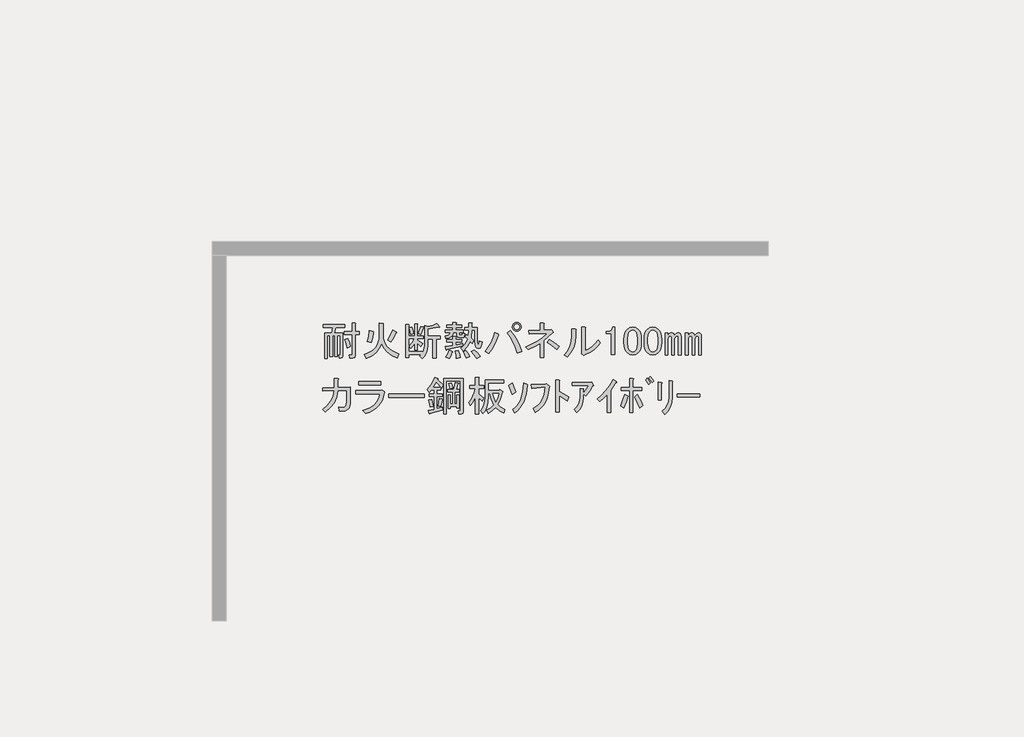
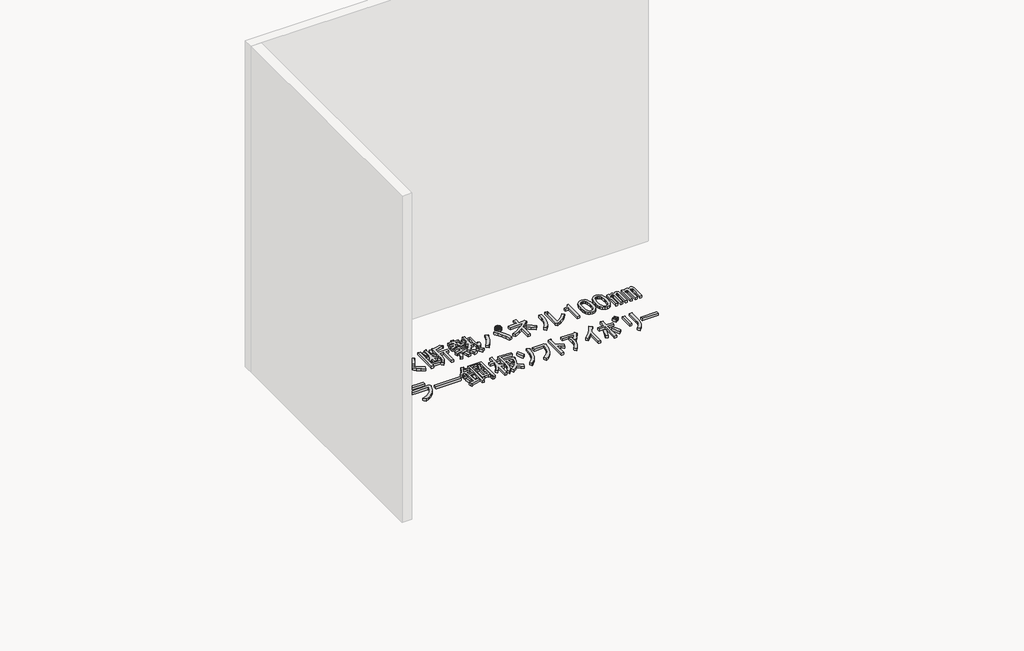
# One storey, part 111 of 117: 1 proxy.
"""IFC4 building model written with IfcOpenShell, lengths in millimetres."""

from ifc_helpers import new_model, si_unit, frame, origin, place, context, project, spatial, polyline, outline, extrude, element, save

model = new_model("IFC4")

# Units and contexts
model_context = context("Model", 3, world=origin())
ifc_project = project(units=[si_unit("LENGTHUNIT", "METRE", prefix="MILLI")], contexts=[model_context])

# Site, building, storey
site = spatial("IfcSite", under=ifc_project)
building = spatial("IfcBuilding", under=site)
storey = spatial("IfcBuildingStorey", under=building, Name="レベル 1", Elevation=500.0)

# Proxy
placement = place(None, origin())
element("IfcBuildingElementProxy", 1, Name="200㎜\u3000MS Pゴシック", ObjectType="200㎜\u3000MS Pゴシック", at=placement, inside=storey, context=model_context, shape_type="SweptSolid", body=[
    extrude(outline(polyline([(56978.5674486, 11229.3142262), (56971.0959694, 11259.7748726), (56960.176115, 11289.0860605), (56982.0158237, 11297.132269), (56994.372501, 11267.5337164), (57001.5566157, 11238.5098931), (56978.5674486, 11229.3142262)])), frame((0.0, 0.0, 500.0), z_axis=(0.0, 0.0, 1.0), x_axis=(1.0, 0.0, 0.0)), (0.0, 0.0, 1.0), 25.0),
    extrude(outline(polyline([(56887.7602388, 11320.121436), (56871.6678219, 11320.121436), (56871.6678219, 11164.9445585), (56852.1270299, 11164.9445585), (56852.1270299, 11320.121436), (56833.7356963, 11320.121436), (56833.7356963, 11152.3005167), (56814.1949043, 11152.3005167), (56814.1949043, 11338.5127697), (56865.9205301, 11338.5127697), (56871.6678219, 11377.5943537), (56804.9992375, 11377.5943537), (56804.9992375, 11399.4340623), (56960.176115, 11399.4340623), (56960.176115, 11377.5943537), (56895.8064473, 11377.5943537), (56885.4613221, 11338.5127697), (56946.3826148, 11338.5127697), (56946.3826148, 11170.6918503), (56942.3595106, 11158.6225376), (56930.2901979, 11154.5994334), (56919.9450727, 11154.5994334), (56915.3472393, 11176.439142), (56922.2439894, 11176.439142), (56925.6923645, 11177.5886004), (56926.8418228, 11181.0369755), (56926.8418228, 11320.121436), (56907.3010308, 11320.121436), (56907.3010308, 11164.9445585), (56887.7602388, 11164.9445585), (56887.7602388, 11320.121436)])), frame((0.0, 0.0, 500.0), z_axis=(0.0, 0.0, 1.0), x_axis=(1.0, 0.0, 0.0)), (0.0, 0.0, 1.0), 25.0),
    extrude(outline(polyline([(56956.72774, 11325.8687278), (56956.72774, 11347.7084365), (57013.0511992, 11347.7084365), (57013.0511992, 11409.7791875), (57034.8909079, 11409.7791875), (57039.7761059, 11407.4802708), (57036.0403663, 11402.8824374), (57036.0403663, 11347.7084365), (57064.7768251, 11347.7084365), (57064.7768251, 11325.8687278), (57036.0403663, 11325.8687278), (57036.0403663, 11172.990767), (57031.4425328, 11159.1972668), (57017.6490326, 11154.5994334), (56994.6598656, 11154.5994334), (56991.2114905, 11176.439142), (57008.4533658, 11176.439142), (57011.9017409, 11177.5886004), (57013.0511992, 11181.0369755), (57013.0511992, 11325.8687278), (56956.72774, 11325.8687278)])), frame((0.0, 0.0, 500.0), z_axis=(0.0, 0.0, 1.0), x_axis=(1.0, 0.0, 0.0)), (0.0, 0.0, 1.0), 25.0),
    extrude(outline(polyline([(57226.8504527, 11261.4990601), (57210.9017181, 11226.6561038), (57187.1941395, 11196.8420278), (57155.7277172, 11172.0568321), (57116.5024509, 11152.3005167), (57102.7089507, 11181.0369755), (57128.032955, 11190.71757), (57149.9804254, 11202.5174784), (57168.5513619, 11216.4367006), (57183.7457645, 11232.4752367), (57195.5636332, 11250.6330866), (57204.0049679, 11270.9102504), (57209.0697688, 11293.3067279), (57210.7580358, 11317.8225193), (57210.7580358, 11408.6297292), (57237.1955779, 11406.3308125), (57240.6439529, 11402.8824374), (57237.1955779, 11397.1351456), (57237.1955779, 11317.8225193), (57238.9916065, 11296.377937), (57244.3796926, 11276.2983364), (57253.3598359, 11257.5837176), (57265.9320367, 11240.2340806), (57282.0962947, 11224.2494254), (57301.8526102, 11209.629752), (57352.1414131, 11184.4853505), (57340.6468295, 11155.7488917), (57301.2060398, 11175.2896837), (57269.0930471, 11199.4283091), (57244.3078514, 11228.1647679), (57226.8504527, 11261.4990601)])), frame((0.0, 0.0, 500.0), z_axis=(0.0, 0.0, 1.0), x_axis=(1.0, 0.0, 0.0)), (0.0, 0.0, 1.0), 25.0),
    extrude(outline(polyline([(57330.3017044, 11337.3633113), (57310.1861832, 11297.9943628), (57293.5190371, 11271.8441853), (57270.5298701, 11286.7871438), (57290.3580266, 11318.3972485), (57308.4619957, 11358.0535617), (57333.7500794, 11345.4095198), (57336.3363607, 11341.6737801), (57330.3017044, 11337.3633113)])), frame((0.0, 0.0, 500.0), z_axis=(0.0, 0.0, 1.0), x_axis=(1.0, 0.0, 0.0)), (0.0, 0.0, 1.0), 25.0),
    extrude(outline(polyline([(57122.2497427, 11276.4420187), (57134.0316908, 11310.6384046), (57137.1927012, 11353.4557283), (57165.92916, 11346.5589781), (57170.5269934, 11342.8232385), (57165.92916, 11338.5127697), (57162.1934204, 11304.0290191), (57150.9862015, 11267.2463519), (57122.2497427, 11276.4420187)])), frame((0.0, 0.0, 500.0), z_axis=(0.0, 0.0, 1.0), x_axis=(1.0, 0.0, 0.0)), (0.0, 0.0, 1.0), 25.0),
    extrude(outline(polyline([(57647.5522095, 11381.0427287), (57645.828022, 11376.4448953), (57638.3565427, 11378.743812), (57561.3428331, 11366.0997701), (57561.3428331, 11316.673061), (57653.2995013, 11316.673061), (57653.2995013, 11294.8333523), (57622.2641258, 11294.8333523), (57622.2641258, 11154.5994334), (57599.2749588, 11154.5994334), (57599.2749588, 11294.8333523), (57561.3428331, 11294.8333523), (57561.3428331, 11245.4066432), (57558.7565518, 11217.6041193), (57550.997708, 11192.8189236), (57538.0663015, 11171.051056), (57519.9623325, 11152.3005167), (57502.7204572, 11171.8413086), (57513.0655823, 11181.0369755), (57423.4078309, 11181.0369755), (57423.4078309, 11159.1972668), (57400.4186638, 11159.1972668), (57400.4186638, 11398.284604), (57422.2583725, 11398.284604), (57427.1435705, 11395.9856873), (57423.4078309, 11391.3878539), (57423.4078309, 11315.5236026), (57465.9377899, 11315.5236026), (57465.9377899, 11402.8824374), (57484.3291235, 11402.8824374), (57489.2143215, 11400.5835207), (57485.4785819, 11395.9856873), (57485.4785819, 11315.5236026), (57529.1579993, 11315.5236026), (57529.1579993, 11297.132269), (57485.4785819, 11297.132269), (57485.4785819, 11287.9366022), (57525.7096242, 11261.4990601), (57511.916124, 11239.6593514), (57485.4785819, 11266.0968935), (57485.4785819, 11213.2218093), (57465.9377899, 11213.2218093), (57465.9377899, 11261.4990601), (57452.7190189, 11241.6709035), (57438.3507895, 11225.8658512), (57425.7067476, 11244.2571848), (57447.5464563, 11268.3958102), (57464.7883316, 11297.132269), (57423.4078309, 11297.132269), (57423.4078309, 11202.8766841), (57521.1117908, 11202.8766841), (57521.1117908, 11189.0831839), (57534.0431973, 11213.2218093), (57538.3536661, 11246.5561015), (57538.3536661, 11391.3878539), (57560.1933748, 11385.6405621), (57596.4013129, 11393.1120414), (57626.8619592, 11406.3308125), (57647.5522095, 11381.0427287)])), frame((0.0, 0.0, 500.0), z_axis=(0.0, 0.0, 1.0), x_axis=(1.0, 0.0, 0.0)), (0.0, 0.0, 1.0), 25.0),
    extrude(outline(polyline([(57493.5247904, 11332.7654779), (57510.7666656, 11385.6405621), (57531.456916, 11379.8932704), (57533.1811035, 11376.7322599), (57529.1579993, 11374.1459786), (57511.916124, 11325.8687278), (57493.5247904, 11332.7654779)])), frame((0.0, 0.0, 500.0), z_axis=(0.0, 0.0, 1.0), x_axis=(1.0, 0.0, 0.0)), (0.0, 0.0, 1.0), 25.0),
    extrude(outline(polyline([(57439.5002478, 11324.7192695), (57426.8562059, 11375.2954369), (57446.3969979, 11382.1921871), (57454.1558418, 11358.0535617), (57459.0410398, 11331.6160196), (57439.5002478, 11324.7192695)])), frame((0.0, 0.0, 500.0), z_axis=(0.0, 0.0, 1.0), x_axis=(1.0, 0.0, 0.0)), (0.0, 0.0, 1.0), 25.0),
    extrude(outline(polyline([(57770.5442532, 11340.8116864), (57745.2561695, 11340.8116864), (57740.6583361, 11323.3542877), (57730.3132109, 11310.0636755), (57714.220794, 11300.9398498), (57692.3810853, 11295.9828107), (57687.7832519, 11315.5236026), (57713.0713356, 11324.1445403), (57720.5428149, 11331.4723373), (57724.5659191, 11340.8116864), (57688.9327102, 11340.8116864), (57688.9327102, 11359.20302), (57742.9572528, 11359.20302), (57742.9572528, 11376.4448953), (57699.2778354, 11376.4448953), (57699.2778354, 11394.8362289), (57742.9572528, 11394.8362289), (57742.9572528, 11413.2275626), (57764.7969614, 11413.2275626), (57769.6821594, 11410.9286459), (57765.9464198, 11406.3308125), (57765.9464198, 11394.8362289), (57808.4763788, 11394.8362289), (57808.4763788, 11376.4448953), (57765.9464198, 11376.4448953), (57765.9464198, 11359.20302), (57818.821504, 11359.20302), (57818.821504, 11340.8116864), (57790.0850452, 11340.8116864), (57790.0850452, 11328.1676445), (57791.5218681, 11322.9950819), (57795.832337, 11321.2708944), (57806.1774621, 11321.2708944), (57809.9132018, 11324.4319049), (57809.6258372, 11333.9149363), (57829.1666292, 11331.6160196), (57826.2929833, 11310.0636755), (57820.9767384, 11304.6755894), (57813.0742122, 11302.8795608), (57788.9355868, 11302.8795608), (57775.1420866, 11307.7647588), (57770.5442532, 11322.4203528), (57770.5442532, 11340.8116864)])), frame((0.0, 0.0, 500.0), z_axis=(0.0, 0.0, 1.0), x_axis=(1.0, 0.0, 0.0)), (0.0, 0.0, 1.0), 25.0),
    extrude(outline(polyline([(57901.5825053, 11358.0535617), (57879.7427966, 11358.0535617), (57875.1449632, 11300.5806441), (57894.6857552, 11282.1893104), (57884.3406301, 11260.3496017), (57868.2482131, 11276.4420187), (57848.9947857, 11238.7972576), (57818.821504, 11206.3250592), (57801.5796287, 11227.0153095), (57816.6662696, 11238.9409399), (57829.7413583, 11254.0275808), (57840.804895, 11272.2752321), (57849.8568795, 11293.683894), (57832.6150042, 11308.6268525), (57840.6612127, 11325.8687278), (57854.4547129, 11315.5236026), (57856.7536296, 11358.0535617), (57829.1666292, 11358.0535617), (57829.1666292, 11376.4448953), (57856.7536296, 11376.4448953), (57856.7536296, 11410.9286459), (57878.5933383, 11410.9286459), (57883.4785363, 11408.6297292), (57879.7427966, 11404.0318957), (57879.7427966, 11376.4448953), (57921.1232973, 11376.4448953), (57921.1232973, 11279.8903937), (57924.5716724, 11255.7517683), (57927.804524, 11253.7402162), (57930.6063287, 11256.9012267), (57934.9167975, 11278.7409354), (57954.4575895, 11271.8441853), (57949.9315973, 11245.0474374), (57942.1009122, 11229.0268616), (57930.9655345, 11223.7824579), (57916.5254639, 11229.3142262), (57909.9879195, 11236.6420232), (57905.318245, 11248.280289), (57901.5825053, 11284.4882271), (57901.5825053, 11358.0535617)])), frame((0.0, 0.0, 500.0), z_axis=(0.0, 0.0, 1.0), x_axis=(1.0, 0.0, 0.0)), (0.0, 0.0, 1.0), 25.0),
    extrude(outline(polyline([(57700.4272937, 11218.9691011), (57698.4157416, 11214.0839031), (57694.680002, 11215.520726), (57688.9327102, 11239.6593514), (57744.1067111, 11247.7055599), (57744.1067111, 11270.6947269), (57700.4272937, 11270.6947269), (57700.4272937, 11289.0860605), (57744.1067111, 11289.0860605), (57744.1067111, 11312.0752276), (57762.4980447, 11312.0752276), (57767.3832427, 11309.7763109), (57763.6475031, 11305.1784775), (57763.6475031, 11289.0860605), (57808.4763788, 11289.0860605), (57808.4763788, 11270.6947269), (57763.6475031, 11270.6947269), (57763.6475031, 11251.1539349), (57814.2236706, 11260.3496017), (57814.2236706, 11244.2571848), (57700.4272937, 11218.9691011)])), frame((0.0, 0.0, 500.0), z_axis=(0.0, 0.0, 1.0), x_axis=(1.0, 0.0, 0.0)), (0.0, 0.0, 1.0), 25.0),
    extrude(outline(polyline([(57898.1341303, 11214.3712677), (57922.8474849, 11193.1062881), (57941.8135477, 11168.3929336), (57915.3760056, 11153.449975), (57896.1225782, 11183.0485276), (57877.4438799, 11202.8766841), (57898.1341303, 11214.3712677)])), frame((0.0, 0.0, 500.0), z_axis=(0.0, 0.0, 1.0), x_axis=(1.0, 0.0, 0.0)), (0.0, 0.0, 1.0), 25.0),
    extrude(outline(polyline([(57839.5117543, 11155.7488917), (57831.1781813, 11180.4622463), (57817.6720456, 11201.7272258), (57838.362296, 11209.7734343), (57855.3168067, 11188.2210902), (57867.0987548, 11164.9445585), (57839.5117543, 11155.7488917)])), frame((0.0, 0.0, 500.0), z_axis=(0.0, 0.0, 1.0), x_axis=(1.0, 0.0, 0.0)), (0.0, 0.0, 1.0), 25.0),
    extrude(outline(polyline([(57738.3594193, 11204.0261425), (57741.8077944, 11199.1409445), (57736.0605026, 11195.979934), (57726.2901067, 11170.4044857), (57715.3702523, 11151.1510583), (57692.3810853, 11162.6456418), (57705.0251271, 11186.209538), (57715.3702523, 11213.2218093), (57738.3594193, 11204.0261425)])), frame((0.0, 0.0, 500.0), z_axis=(0.0, 0.0, 1.0), x_axis=(1.0, 0.0, 0.0)), (0.0, 0.0, 1.0), 25.0),
    extrude(outline(polyline([(57783.1882951, 11208.6239759), (57793.2460557, 11181.32434), (57798.1312537, 11159.1972668), (57769.3947949, 11153.449975), (57766.8085136, 11175.0023191), (57759.0496697, 11205.1756008), (57783.1882951, 11208.6239759)])), frame((0.0, 0.0, 500.0), z_axis=(0.0, 0.0, 1.0), x_axis=(1.0, 0.0, 0.0)), (0.0, 0.0, 1.0), 25.0),
    extrude(outline(polyline([(58206.1889686, 11350.0073532), (58193.5449268, 11352.3062699), (58183.1998016, 11359.20302), (58176.3030515, 11369.5481452), (58174.0041348, 11382.1921871), (58176.3030515, 11394.8362289), (58183.1998016, 11405.1813541), (58193.5449268, 11412.0781042), (58206.1889686, 11414.3770209), (58218.8330105, 11412.0781042), (58229.1781357, 11405.1813541), (58236.0748858, 11394.8362289), (58238.3738025, 11382.1921871), (58236.0748858, 11369.5481452), (58229.1781357, 11359.20302), (58218.8330105, 11352.3062699), (58206.1889686, 11350.0073532)]), holes=[polyline([(58206.1889686, 11361.5019367), (58214.5225417, 11362.9387597), (58221.1319272, 11367.2492285), (58225.442396, 11373.858614), (58226.879219, 11382.1921871), (58225.442396, 11390.5257601), (58221.1319272, 11397.1351456), (58214.5225417, 11401.4456145), (58206.1889686, 11402.8824374), (58197.8553956, 11401.4456145), (58191.2460101, 11397.1351456), (58186.9355412, 11390.5257601), (58185.4987183, 11382.1921871), (58186.9355412, 11373.858614), (58191.2460101, 11367.2492285), (58197.8553956, 11362.9387597), (58206.1889686, 11361.5019367)])]), frame((0.0, 0.0, 500.0), z_axis=(0.0, 0.0, 1.0), x_axis=(1.0, 0.0, 0.0)), (0.0, 0.0, 1.0), 25.0),
    extrude(outline(polyline([(58160.2106345, 11355.754645), (58186.8637001, 11319.0438188), (58209.3499791, 11281.3272167), (58227.6694716, 11242.6048384), (58241.8221775, 11202.8766841), (58210.786802, 11192.531559), (58195.3409554, 11235.6362472), (58177.7398744, 11274.143102), (58157.983559, 11308.0521234), (58136.0720092, 11337.3633113), (58160.2106345, 11355.754645)])), frame((0.0, 0.0, 500.0), z_axis=(0.0, 0.0, 1.0), x_axis=(1.0, 0.0, 0.0)), (0.0, 0.0, 1.0), 25.0),
    extrude(outline(polyline([(58072.8517998, 11329.3171029), (58076.874904, 11323.8571757), (58070.5528831, 11318.9719777), (58058.6272527, 11283.5542922), (58043.5406118, 11249.717112), (58025.2929605, 11217.460437), (58003.8842987, 11186.7842672), (57977.4467566, 11204.0261425), (58000.6514471, 11235.4925649), (58019.689351, 11268.9705394), (58034.5604684, 11304.460066), (58045.2647993, 11341.9611447), (58072.8517998, 11329.3171029)])), frame((0.0, 0.0, 500.0), z_axis=(0.0, 0.0, 1.0), x_axis=(1.0, 0.0, 0.0)), (0.0, 0.0, 1.0), 25.0),
    extrude(outline(polyline([(58449.8741393, 11360.3524784), (58456.7708894, 11362.6513951), (58469.4149312, 11345.4095198), (58470.5643896, 11339.3748634), (58464.8170978, 11337.3633113), (58401.5968885, 11281.0398521), (58401.5968885, 11160.3467251), (58375.1593464, 11160.3467251), (58375.1593464, 11262.6485184), (58334.9283041, 11238.5098931), (58290.0994283, 11216.6701844), (58270.5586363, 11237.3604347), (58316.1059235, 11256.8293855), (58357.3427419, 11279.6030291), (58394.2690915, 11305.6813655), (58426.8849722, 11335.0643946), (58296.9961784, 11329.3171029), (58293.5478034, 11354.6051866), (58375.1593464, 11356.9041033), (58375.1593464, 11408.6297292), (58398.1485134, 11408.6297292), (58404.1831698, 11405.1813541), (58401.5968885, 11399.4340623), (58401.5968885, 11358.0535617), (58449.8741393, 11360.3524784)])), frame((0.0, 0.0, 500.0), z_axis=(0.0, 0.0, 1.0), x_axis=(1.0, 0.0, 0.0)), (0.0, 0.0, 1.0), 25.0),
    extrude(outline(polyline([(58495.8524733, 11216.6701844), (58458.7824415, 11245.9813723), (58425.7355139, 11267.2463519), (58442.9773892, 11289.0860605), (58481.7716085, 11265.8095289), (58515.3932653, 11239.6593514), (58495.8524733, 11216.6701844)])), frame((0.0, 0.0, 500.0), z_axis=(0.0, 0.0, 1.0), x_axis=(1.0, 0.0, 0.0)), (0.0, 0.0, 1.0), 25.0),
    extrude(outline(polyline([(58702.8469334, 11209.7734343), (58727.6321291, 11221.9864292), (58751.4115488, 11239.0846222), (58774.1851924, 11261.0680132), (58795.9530599, 11287.9366022), (58812.0454768, 11266.0968935), (58788.7689452, 11238.2943696), (58762.6187677, 11214.6586322), (58733.5949443, 11195.1896814), (58701.697475, 11179.8875171), (58692.5018082, 11175.2896837), (58674.1104746, 11189.0831839), (58676.4093913, 11194.8304757), (58676.4093913, 11379.8932704), (58700.5480167, 11379.8932704), (58706.2953084, 11376.4448953), (58702.8469334, 11370.6976035), (58702.8469334, 11209.7734343)])), frame((0.0, 0.0, 500.0), z_axis=(0.0, 0.0, 1.0), x_axis=(1.0, 0.0, 0.0)), (0.0, 0.0, 1.0), 25.0),
    extrude(outline(polyline([(58548.8195142, 11178.7380587), (58573.9639157, 11207.9774056), (58591.9242024, 11240.5214452), (58602.7003745, 11276.3701775), (58606.2924318, 11315.5236026), (58606.2924318, 11367.2492285), (58630.4310572, 11367.2492285), (58636.178349, 11363.8008534), (58632.7299739, 11358.0535617), (58632.7299739, 11316.673061), (58628.9223931, 11270.9102504), (58617.4996507, 11230.17632), (58598.4617468, 11194.4712699), (58571.8086812, 11163.7951002), (58548.8195142, 11178.7380587)])), frame((0.0, 0.0, 500.0), z_axis=(0.0, 0.0, 1.0), x_axis=(1.0, 0.0, 0.0)), (0.0, 0.0, 1.0), 25.0),
    extrude(outline(polyline([(58891.3581031, 11356.9041033), (58899.4043116, 11367.8239577), (58902.8526866, 11379.8932704), (58916.6461869, 11379.8932704), (58916.6461869, 11181.0369755), (58890.2086448, 11181.0369755), (58890.2086448, 11333.9149363), (58855.7248942, 11333.9149363), (58855.7248942, 11347.7084365), (58866.0700194, 11347.7084365), (58880.4382488, 11350.0073532), (58891.3581031, 11356.9041033)])), frame((0.0, 0.0, 500.0), z_axis=(0.0, 0.0, 1.0), x_axis=(1.0, 0.0, 0.0)), (0.0, 0.0, 1.0), 25.0),
    extrude(outline(polyline([(58982.1653129, 11290.2355189), (58983.6021359, 11313.7994151), (58987.9126047, 11333.9149363), (58995.0967194, 11350.5820824), (59005.15448, 11363.8008534), (59023.258449, 11375.8701661), (59045.3855223, 11379.8932704), (59067.5125956, 11375.8701661), (59085.6165646, 11363.8008534), (59095.6743252, 11350.5820824), (59102.8584399, 11333.9149363), (59107.1689087, 11313.7994151), (59108.6057317, 11290.2355189), (59108.6057317, 11267.2463519), (59107.1689087, 11244.1853437), (59102.8584399, 11224.4290282), (59095.6743252, 11207.9774056), (59085.6165646, 11194.8304757), (59067.5125956, 11182.761163), (59045.3855223, 11178.7380587), (59023.258449, 11182.761163), (59005.15448, 11194.8304757), (58995.0967194, 11207.9774056), (58987.9126047, 11224.4290282), (58983.6021359, 11244.1853437), (58982.1653129, 11267.2463519), (58982.1653129, 11290.2355189)]), holes=[polyline([(59045.3855223, 11358.0535617), (59034.4656679, 11355.754645), (59024.695272, 11348.8578948), (59018.1577276, 11339.7340692), (59013.488053, 11327.3055507), (59009.7523134, 11292.5344356), (59009.7523134, 11266.0968935), (59013.7754176, 11231.9005075), (59018.8042979, 11219.3283068), (59025.8447303, 11209.7734343), (59035.3277617, 11202.8766841), (59045.3855223, 11200.5777674), (59056.3053766, 11202.8766841), (59066.0757726, 11209.7734343), (59072.613317, 11218.8972599), (59077.2829916, 11231.3257784), (59081.0187312, 11266.0968935), (59081.0187312, 11292.5344356), (59077.2829916, 11327.3055507), (59072.613317, 11339.7340692), (59066.0757726, 11348.8578948), (59056.3053766, 11355.754645), (59045.3855223, 11358.0535617)])]), frame((0.0, 0.0, 500.0), z_axis=(0.0, 0.0, 1.0), x_axis=(1.0, 0.0, 0.0)), (0.0, 0.0, 1.0), 25.0),
    extrude(outline(polyline([(59129.295982, 11290.2355189), (59130.7328049, 11313.7994151), (59135.0432737, 11333.9149363), (59142.2273884, 11350.5820824), (59152.285149, 11363.8008534), (59170.3891181, 11375.8701661), (59192.5161914, 11379.8932704), (59214.6432646, 11375.8701661), (59232.7472337, 11363.8008534), (59242.8049943, 11350.5820824), (59249.989109, 11333.9149363), (59254.2995778, 11313.7994151), (59255.7364007, 11290.2355189), (59255.7364007, 11267.2463519), (59254.2995778, 11244.1853437), (59249.989109, 11224.4290282), (59242.8049943, 11207.9774056), (59232.7472337, 11194.8304757), (59214.6432646, 11182.761163), (59192.5161914, 11178.7380587), (59170.3891181, 11182.761163), (59152.285149, 11194.8304757), (59142.2273884, 11207.9774056), (59135.0432737, 11224.4290282), (59130.7328049, 11244.1853437), (59129.295982, 11267.2463519), (59129.295982, 11290.2355189)]), holes=[polyline([(59192.5161914, 11358.0535617), (59181.596337, 11355.754645), (59171.825941, 11348.8578948), (59165.2883966, 11339.7340692), (59160.6187221, 11327.3055507), (59156.8829824, 11292.5344356), (59156.8829824, 11266.0968935), (59160.9060867, 11231.9005075), (59165.934967, 11219.3283068), (59172.9753994, 11209.7734343), (59182.4584308, 11202.8766841), (59192.5161914, 11200.5777674), (59203.4360457, 11202.8766841), (59213.2064417, 11209.7734343), (59219.7439861, 11218.8972599), (59224.4136606, 11231.3257784), (59228.1494003, 11266.0968935), (59228.1494003, 11292.5344356), (59224.4136606, 11327.3055507), (59219.7439861, 11339.7340692), (59213.2064417, 11348.8578948), (59203.4360457, 11355.754645), (59192.5161914, 11358.0535617)])]), frame((0.0, 0.0, 500.0), z_axis=(0.0, 0.0, 1.0), x_axis=(1.0, 0.0, 0.0)), (0.0, 0.0, 1.0), 25.0),
    extrude(outline(polyline([(59300.5652764, 11178.7380587), (59281.0244845, 11178.7380587), (59281.0244845, 11336.213853), (59300.5652764, 11336.213853), (59300.5652764, 11318.9719777), (59312.6345891, 11334.4896654), (59325.8533602, 11339.662228), (59335.049027, 11338.2254051), (59341.9457771, 11333.9149363), (59348.8425272, 11320.121436), (59361.7739337, 11334.77703), (59375.2800693, 11339.662228), (59383.6136424, 11338.2254051), (59390.2230279, 11333.9149363), (59395.3955905, 11325.2939986), (59397.119778, 11313.2246859), (59397.119778, 11178.7380587), (59377.578986, 11178.7380587), (59377.578986, 11302.8795608), (59374.9927047, 11312.3625922), (59367.2338609, 11315.5236026), (59356.8887357, 11310.9257692), (59350.8540793, 11302.3048316), (59348.8425272, 11292.5344356), (59348.8425272, 11178.7380587), (59329.3017352, 11178.7380587), (59329.3017352, 11302.8795608), (59326.715454, 11312.3625922), (59318.9566101, 11315.5236026), (59308.6114849, 11310.9257692), (59302.5768286, 11302.3048316), (59300.5652764, 11292.5344356), (59300.5652764, 11178.7380587)])), frame((0.0, 0.0, 500.0), z_axis=(0.0, 0.0, 1.0), x_axis=(1.0, 0.0, 0.0)), (0.0, 0.0, 1.0), 25.0),
    extrude(outline(polyline([(59522.4107384, 11339.662228), (59530.7443114, 11338.2254051), (59537.353697, 11333.9149363), (59542.5262595, 11325.2939986), (59544.2504471, 11313.2246859), (59544.2504471, 11178.7380587), (59524.7096551, 11178.7380587), (59524.7096551, 11302.8795608), (59522.1233738, 11312.3625922), (59514.3645299, 11315.5236026), (59504.0194048, 11310.9257692), (59497.9847484, 11302.3048316), (59495.9731963, 11292.5344356), (59495.9731963, 11178.7380587), (59476.4324043, 11178.7380587), (59476.4324043, 11302.8795608), (59473.846123, 11312.3625922), (59466.0872791, 11315.5236026), (59455.742154, 11310.9257692), (59449.7074976, 11302.3048316), (59447.6959455, 11292.5344356), (59447.6959455, 11178.7380587), (59428.1551535, 11178.7380587), (59428.1551535, 11336.213853), (59447.6959455, 11336.213853), (59447.6959455, 11318.9719777), (59459.7652582, 11334.4896654), (59472.9840292, 11339.662228), (59482.1796961, 11338.2254051), (59489.0764462, 11333.9149363), (59495.9731963, 11320.121436), (59508.9046028, 11334.77703), (59522.4107384, 11339.662228)])), frame((0.0, 0.0, 500.0), z_axis=(0.0, 0.0, 1.0), x_axis=(1.0, 0.0, 0.0)), (0.0, 0.0, 1.0), 25.0),
    extrude(outline(polyline([(56975.1190736, 10921.2708944), (56909.5999475, 10918.9719777), (56901.3382156, 10872.706279), (56883.44977, 10831.6131429), (56855.9346107, 10795.6925694), (56818.7927377, 10764.9445585), (56799.2519457, 10784.4853505), (56834.2385843, 10812.7189213), (56859.8858738, 10844.5445494), (56876.1938142, 10879.9622349), (56883.1624054, 10918.9719777), (56801.5508624, 10916.673061), (56799.2519457, 10939.662228), (56884.3118638, 10941.9611447), (56884.3118638, 11006.3308125), (56908.4504892, 11006.3308125), (56915.3472393, 11002.8824374), (56910.7494059, 10997.1351456), (56910.7494059, 10941.9611447), (57001.5566157, 10945.4095198), (57001.5566157, 10874.143102), (56998.9703344, 10826.1532158), (56991.2114905, 10794.8304757), (56984.602105, 10784.7727151), (56975.1190736, 10777.5886004), (56962.7623963, 10773.2781316), (56947.5320731, 10771.8413086), (56919.9450727, 10771.8413086), (56916.4966976, 10800.5777674), (56946.3826148, 10798.2788507), (56960.4634796, 10801.1524966), (56968.2223235, 10809.7734343), (56973.3948861, 10835.061518), (56975.1190736, 10874.143102), (56975.1190736, 10921.2708944)])), frame((0.0, 0.0, 500.0), z_axis=(0.0, 0.0, 1.0), x_axis=(1.0, 0.0, 0.0)), (0.0, 0.0, 1.0), 25.0),
    extrude(outline(polyline([(57089.9729521, 10775.2896837), (57139.6151847, 10793.6091762), (57159.8564279, 10805.7323697), (57177.0444223, 10819.8311948), (57191.179168, 10835.9056515), (57202.2606649, 10853.9557397), (57210.2889131, 10873.9814594), (57215.2639125, 10895.9828107), (57040.546243, 10895.9828107), (57040.546243, 10921.2708944), (57216.4133709, 10921.2708944), (57226.758496, 10924.7192695), (57247.4487464, 10912.0752276), (57250.3223922, 10906.6153004), (57245.1498297, 10901.7301024), (57239.0253719, 10874.2508637), (57229.8476653, 10849.2860651), (57217.6167101, 10826.8357067), (57202.332506, 10806.8997884), (57183.9950533, 10789.4783102), (57162.6043517, 10774.5712722), (57138.1604015, 10762.1786744), (57110.6632025, 10752.3005167), (57089.9729521, 10775.2896837)])), frame((0.0, 0.0, 500.0), z_axis=(0.0, 0.0, 1.0), x_axis=(1.0, 0.0, 0.0)), (0.0, 0.0, 1.0), 25.0),
    extrude(outline(polyline([(57219.8617459, 10961.5019367), (57061.2364933, 10961.5019367), (57061.2364933, 10986.7900205), (57219.8617459, 10986.7900205), (57219.8617459, 10961.5019367)])), frame((0.0, 0.0, 500.0), z_axis=(0.0, 0.0, 1.0), x_axis=(1.0, 0.0, 0.0)), (0.0, 0.0, 1.0), 25.0),
    extrude(outline(polyline([(57278.8979269, 10870.6947269), (57278.8979269, 10895.9828107), (57535.2271394, 10895.9828107), (57535.2271394, 10870.6947269), (57278.8979269, 10870.6947269)])), frame((0.0, 0.0, 500.0), z_axis=(0.0, 0.0, 1.0), x_axis=(1.0, 0.0, 0.0)), (0.0, 0.0, 1.0), 25.0),
    extrude(outline(polyline([(57662.5411464, 10937.3633113), (57621.1606458, 10981.0427287), (57599.3209371, 10941.9611447), (57654.494938, 10941.9611447), (57654.494938, 10923.5698111), (57628.0573959, 10923.5698111), (57628.0573959, 10894.8333523), (57665.9895215, 10894.8333523), (57665.9895215, 10876.4420187), (57628.0573959, 10876.4420187), (57628.0573959, 10789.0831839), (57667.1389799, 10799.4283091), (57669.4378966, 10779.8875171), (57577.4812284, 10754.5994334), (57575.1823117, 10748.8521416), (57570.5844783, 10752.3005167), (57563.6877282, 10775.2896837), (57608.5166039, 10784.4853505), (57608.5166039, 10876.4420187), (57570.5844783, 10876.4420187), (57570.5844783, 10894.8333523), (57608.5166039, 10894.8333523), (57608.5166039, 10923.5698111), (57586.6768952, 10923.5698111), (57571.7339366, 10905.1784775), (57559.0898948, 10925.8687278), (57587.2516244, 10963.5134888), (57611.964979, 11014.3770209), (57633.8046876, 11008.6297292), (57637.2530627, 11004.8939895), (57631.5057709, 11002.8824374), (57630.3563126, 10999.4340623), (57675.1851883, 10961.5019367), (57662.5411464, 10937.3633113)])), frame((0.0, 0.0, 500.0), z_axis=(0.0, 0.0, 1.0), x_axis=(1.0, 0.0, 0.0)), (0.0, 0.0, 1.0), 25.0),
    extrude(outline(polyline([(57730.3591892, 10974.1459786), (57737.5433039, 10958.9156554), (57743.0032311, 10938.5127697), (57725.7613558, 10932.7654779), (57714.2667723, 10969.5481452), (57730.3591892, 10974.1459786)])), frame((0.0, 0.0, 500.0), z_axis=(0.0, 0.0, 1.0), x_axis=(1.0, 0.0, 0.0)), (0.0, 0.0, 1.0), 25.0),
    extrude(outline(polyline([(57783.2342734, 10972.9965202), (57785.8205547, 10969.5481452), (57779.7858984, 10966.0997701), (57767.1418565, 10928.1676445), (57787.8321068, 10928.1676445), (57787.8321068, 10909.7763109), (57756.7967313, 10909.7763109), (57756.7967313, 10821.2680178), (57771.7396899, 10821.2680178), (57771.7396899, 10889.0860605), (57787.8321068, 10889.0860605), (57787.8321068, 10794.8304757), (57771.7396899, 10794.8304757), (57771.7396899, 10802.8766841), (57725.7613558, 10802.8766841), (57725.7613558, 10790.2326423), (57709.6689389, 10790.2326423), (57709.6689389, 10886.7871438), (57725.7613558, 10886.7871438), (57725.7613558, 10821.2680178), (57740.7043144, 10821.2680178), (57740.7043144, 10909.7763109), (57705.0711055, 10909.7763109), (57705.0711055, 10928.1676445), (57751.0494396, 10928.1676445), (57761.3945647, 10977.5943537), (57783.2342734, 10972.9965202)])), frame((0.0, 0.0, 500.0), z_axis=(0.0, 0.0, 1.0), x_axis=(1.0, 0.0, 0.0)), (0.0, 0.0, 1.0), 25.0),
    extrude(outline(polyline([(57677.484105, 11006.3308125), (57817.718024, 11006.3308125), (57817.718024, 10766.0940169), (57813.9822843, 10754.8867979), (57802.7750654, 10751.1510583), (57786.6826485, 10751.1510583), (57782.0848151, 10772.990767), (57793.5793986, 10772.990767), (57797.0277736, 10774.1402253), (57798.177232, 10777.5886004), (57798.177232, 10987.9394788), (57697.024897, 10987.9394788), (57697.024897, 10748.8521416), (57677.484105, 10748.8521416), (57677.484105, 11006.3308125)])), frame((0.0, 0.0, 500.0), z_axis=(0.0, 0.0, 1.0), x_axis=(1.0, 0.0, 0.0)), (0.0, 0.0, 1.0), 25.0),
    extrude(outline(polyline([(57665.9895215, 10858.050685), (57668.5758028, 10854.8896746), (57664.8400632, 10852.3033933), (57656.7938547, 10805.1756008), (57638.4025211, 10807.4745175), (57644.1498128, 10861.4990601), (57665.9895215, 10858.050685)])), frame((0.0, 0.0, 500.0), z_axis=(0.0, 0.0, 1.0), x_axis=(1.0, 0.0, 0.0)), (0.0, 0.0, 1.0), 25.0),
    extrude(outline(polyline([(57588.9758119, 10856.9012267), (57600.4703954, 10805.1756008), (57579.7801451, 10799.4283091), (57568.2855616, 10851.1539349), (57588.9758119, 10856.9012267)])), frame((0.0, 0.0, 500.0), z_axis=(0.0, 0.0, 1.0), x_axis=(1.0, 0.0, 0.0)), (0.0, 0.0, 1.0), 25.0),
    extrude(outline(polyline([(57988.9873184, 10777.5886004), (58017.7237772, 10794.8304757), (58039.5634859, 10816.6701844), (58021.7468815, 10858.6254142), (58011.9764855, 10899.4311857), (57999.3324436, 10899.4311857), (57999.3324436, 10875.2925603), (57996.8898446, 10833.5528539), (57989.5620476, 10799.1409445), (57977.3490526, 10772.0568321), (57960.2508596, 10752.3005167), (57946.4573594, 10775.2896837), (57959.5324482, 10792.6752413), (57968.8717973, 10814.9459968), (57974.4754067, 10842.1019504), (57976.3432766, 10874.143102), (57976.3432766, 10994.8362289), (58113.1288204, 10994.8362289), (58113.1288204, 10972.9965202), (57999.3324436, 10972.9965202), (57999.3324436, 10921.2708944), (58078.6450699, 10921.2708944), (58084.3923616, 10927.0181862), (58103.9331536, 10913.2246859), (58105.3699766, 10909.4889463), (58100.4847786, 10905.1784775), (58088.1281013, 10858.6254142), (58069.4494031, 10817.8196427), (58088.4154659, 10799.4283091), (58120.0255706, 10781.0369755), (58110.8299037, 10756.8983501), (58082.9555387, 10772.990767), (58054.5064445, 10798.2788507), (58030.0804545, 10773.8528608), (57998.1829852, 10753.449975), (57988.9873184, 10777.5886004)]), holes=[polyline([(58033.8161942, 10899.4311857), (58041.8624026, 10866.3842581), (58054.5064445, 10838.5098931), (58067.1504864, 10864.6600706), (58075.1966948, 10899.4311857), (58033.8161942, 10899.4311857)])]), frame((0.0, 0.0, 500.0), z_axis=(0.0, 0.0, 1.0), x_axis=(1.0, 0.0, 0.0)), (0.0, 0.0, 1.0), 25.0),
    extrude(outline(polyline([(57906.2263171, 10748.8521416), (57906.2263171, 10868.3958102), (57888.4097126, 10834.1994242), (57869.4436498, 10812.072351), (57857.9490663, 10832.7626013), (57875.1909416, 10855.4644037), (57888.9844418, 10879.8903937), (57899.329567, 10906.0405712), (57906.2263171, 10933.9149363), (57864.8458164, 10933.9149363), (57864.8458164, 10955.754645), (57906.2263171, 10955.754645), (57906.2263171, 11015.5264793), (57928.0660258, 11015.5264793), (57932.9512238, 11013.2275626), (57929.2154841, 11008.6297292), (57929.2154841, 10955.754645), (57967.1476097, 10955.754645), (57967.1476097, 10933.9149363), (57929.2154841, 10933.9149363), (57929.2154841, 10893.683894), (57967.1476097, 10867.2463519), (57956.8024846, 10844.2571848), (57929.2154841, 10867.2463519), (57929.2154841, 10748.8521416), (57906.2263171, 10748.8521416)])), frame((0.0, 0.0, 500.0), z_axis=(0.0, 0.0, 1.0), x_axis=(1.0, 0.0, 0.0)), (0.0, 0.0, 1.0), 25.0),
    extrude(outline(polyline([(58171.7511964, 10976.4448953), (58199.3381969, 10910.9257692), (58175.1995715, 10892.5344356), (58148.7620294, 10958.0535617), (58171.7511964, 10976.4448953)])), frame((0.0, 0.0, 500.0), z_axis=(0.0, 0.0, 1.0), x_axis=(1.0, 0.0, 0.0)), (0.0, 0.0, 1.0), 25.0),
    extrude(outline(polyline([(58280.9497398, 10964.9503118), (58284.9728441, 10960.9272075), (58280.9497398, 10958.0535617), (58273.2627371, 10893.7557351), (58255.9490207, 10838.7972576), (58243.6821448, 10814.8202748), (58229.0085906, 10793.1781293), (58211.9283579, 10773.870821), (58192.4414467, 10756.8983501), (58176.3490298, 10781.0369755), (58194.2195151, 10795.6566489), (58209.8988455, 10813.078127), (58223.3870208, 10833.3014099), (58234.6840412, 10856.3264975), (58250.704617, 10910.7820869), (58257.9605728, 10976.4448953), (58280.9497398, 10964.9503118)])), frame((0.0, 0.0, 500.0), z_axis=(0.0, 0.0, 1.0), x_axis=(1.0, 0.0, 0.0)), (0.0, 0.0, 1.0), 25.0),
    extrude(outline(polyline([(58314.0541404, 10936.213853), (58310.6057653, 10962.6513951), (58417.5053921, 10966.0997701), (58423.2526838, 10967.2492285), (58442.7934758, 10953.4557283), (58444.5176633, 10948.8578948), (58440.4945591, 10946.5589781), (58431.658098, 10885.4940032), (58423.198803, 10858.7331759), (58412.0454649, 10834.4867888), (58398.1980838, 10812.7548419), (58381.6566597, 10793.537335), (58362.4211926, 10776.8342684), (58340.4916825, 10762.6456418), (58324.3992656, 10789.0831839), (58361.0382505, 10814.7304734), (58375.8016062, 10830.8408506), (58388.1942041, 10849.1423828), (58405.8671263, 10892.3189122), (58414.057017, 10944.2600614), (58314.0541404, 10936.213853)])), frame((0.0, 0.0, 500.0), z_axis=(0.0, 0.0, 1.0), x_axis=(1.0, 0.0, 0.0)), (0.0, 0.0, 1.0), 25.0),
    extrude(outline(polyline([(58512.6805436, 10913.2246859), (58548.3137525, 10894.2586231), (58581.6480447, 10871.8441853), (58571.3029196, 10844.2571848), (58540.5549087, 10867.5337164), (58512.6805436, 10884.4882271), (58512.6805436, 10764.9445585), (58489.6913766, 10764.9445585), (58489.6913766, 10998.284604), (58511.5310853, 10995.9856873), (58517.5657416, 10992.8246768), (58512.6805436, 10987.9394788), (58512.6805436, 10913.2246859)])), frame((0.0, 0.0, 500.0), z_axis=(0.0, 0.0, 1.0), x_axis=(1.0, 0.0, 0.0)), (0.0, 0.0, 1.0), 25.0),
    extrude(outline(polyline([(58688.2718015, 10897.132269), (58727.3533854, 10955.754645), (58607.8097168, 10955.754645), (58607.8097168, 10977.5943537), (58738.847969, 10977.5943537), (58748.0436358, 10982.1921871), (58761.837136, 10961.5019367), (58762.6992298, 10956.6167387), (58758.388761, 10955.754645), (58733.3880418, 10916.0983318), (58706.6631351, 10879.8903937), (58688.2718015, 10894.8333523), (58688.2718015, 10868.3958102), (58685.3263144, 10837.4322758), (58676.4898534, 10808.9113405), (58661.7624182, 10782.8330041), (58641.144009, 10759.1972668), (58623.9021338, 10783.3358922), (58642.0061028, 10802.301955), (58654.9375093, 10823.5669345), (58662.6963531, 10847.1308307), (58665.2826344, 10872.9936436), (58665.2826344, 10935.0643946), (58687.1223431, 10932.7654779), (58692.5822703, 10929.891832), (58688.2718015, 10925.8687278), (58688.2718015, 10897.132269)])), frame((0.0, 0.0, 500.0), z_axis=(0.0, 0.0, 1.0), x_axis=(1.0, 0.0, 0.0)), (0.0, 0.0, 1.0), 25.0),
    extrude(outline(polyline([(58790.2517465, 10860.3496017), (58822.5084215, 10886.4279381), (58852.6098621, 10918.6846131), (58880.5560683, 10957.1196268), (58906.34704, 11001.732979), (58927.0372904, 10984.4911038), (58929.9109362, 10979.3185412), (58924.7383737, 10977.5943537), (58885.6567897, 10920.121436), (58885.6567897, 10759.1972668), (58862.6676226, 10759.1972668), (58862.6676226, 10892.5344356), (58835.942716, 10864.9474352), (58806.3441634, 10839.6593514), (58790.2517465, 10860.3496017)])), frame((0.0, 0.0, 500.0), z_axis=(0.0, 0.0, 1.0), x_axis=(1.0, 0.0, 0.0)), (0.0, 0.0, 1.0), 25.0),
    extrude(outline(polyline([(59047.6384607, 10943.1106031), (59112.0081284, 10943.1106031), (59112.0081284, 10921.2708944), (59047.6384607, 10921.2708944), (59047.6384607, 10760.3467251), (59024.6492936, 10760.3467251), (59024.6492936, 10921.2708944), (58962.5785426, 10921.2708944), (58962.5785426, 10943.1106031), (59024.6492936, 10943.1106031), (59024.6492936, 11008.6297292), (59046.4890023, 11006.3308125), (59052.5236587, 11003.169802), (59047.6384607, 10998.284604), (59047.6384607, 10943.1106031)])), frame((0.0, 0.0, 500.0), z_axis=(0.0, 0.0, 1.0), x_axis=(1.0, 0.0, 0.0)), (0.0, 0.0, 1.0), 25.0),
    extrude(outline(polyline([(59009.706335, 10881.0398521), (59013.7294393, 10877.8788416), (59009.706335, 10875.2925603), (58998.2117515, 10835.9236118), (58982.1193346, 10793.6810173), (58957.9807092, 10808.6239759), (58975.5099491, 10850.0044766), (58989.0160847, 10891.3849772), (59009.706335, 10881.0398521)])), frame((0.0, 0.0, 500.0), z_axis=(0.0, 0.0, 1.0), x_axis=(1.0, 0.0, 0.0)), (0.0, 0.0, 1.0), 25.0),
    extrude(outline(polyline([(59078.6738362, 10890.2355189), (59103.3871907, 10848.5676536), (59120.0543368, 10813.2218093), (59098.2146281, 10793.6810173), (59061.4319609, 10872.9936436), (59078.6738362, 10890.2355189)])), frame((0.0, 0.0, 500.0), z_axis=(0.0, 0.0, 1.0), x_axis=(1.0, 0.0, 0.0)), (0.0, 0.0, 1.0), 25.0),
    extrude(outline(polyline([(59152.0552574, 11009.7791875), (59175.0444244, 10976.4448953), (59162.4003825, 10963.8008534), (59140.5606738, 10998.284604), (59152.0552574, 11009.7791875)])), frame((0.0, 0.0, 500.0), z_axis=(0.0, 0.0, 1.0), x_axis=(1.0, 0.0, 0.0)), (0.0, 0.0, 1.0), 25.0),
    extrude(outline(polyline([(59175.0444244, 11021.273771), (59199.1830498, 10990.2383955), (59186.5390079, 10977.5943537), (59163.5498409, 11009.7791875), (59175.0444244, 11021.273771)])), frame((0.0, 0.0, 500.0), z_axis=(0.0, 0.0, 1.0), x_axis=(1.0, 0.0, 0.0)), (0.0, 0.0, 1.0), 25.0),
    extrude(outline(polyline([(59332.5202186, 10869.5452686), (59329.1436847, 10832.618919), (59319.014083, 10800.0030383), (59302.1314134, 10771.6976263), (59278.4956761, 10747.7026832), (59261.2538008, 10770.6918503), (59282.375098, 10790.5200069), (59297.4617389, 10814.3712677), (59306.5137234, 10842.2456327), (59309.5310516, 10874.143102), (59309.5310516, 10992.5373122), (59331.3707603, 10990.2383955), (59337.4054166, 10986.5026559), (59332.5202186, 10982.1921871), (59332.5202186, 10869.5452686)])), frame((0.0, 0.0, 500.0), z_axis=(0.0, 0.0, 1.0), x_axis=(1.0, 0.0, 0.0)), (0.0, 0.0, 1.0), 25.0),
    extrude(outline(polyline([(59231.3678837, 10981.0427287), (59253.2075923, 10978.743812), (59259.2422487, 10975.5828015), (59254.3570507, 10970.6976035), (59254.3570507, 10852.3033933), (59231.3678837, 10852.3033933), (59231.3678837, 10981.0427287)])), frame((0.0, 0.0, 500.0), z_axis=(0.0, 0.0, 1.0), x_axis=(1.0, 0.0, 0.0)), (0.0, 0.0, 1.0), 25.0),
    extrude(outline(polyline([(59369.9465826, 10871.8441853), (59369.9465826, 10893.683894), (59533.1696686, 10893.683894), (59533.1696686, 10871.8441853), (59369.9465826, 10871.8441853)])), frame((0.0, 0.0, 500.0), z_axis=(0.0, 0.0, 1.0), x_axis=(1.0, 0.0, 0.0)), (0.0, 0.0, 1.0), 25.0),
])

save(model, "model.ifc")
